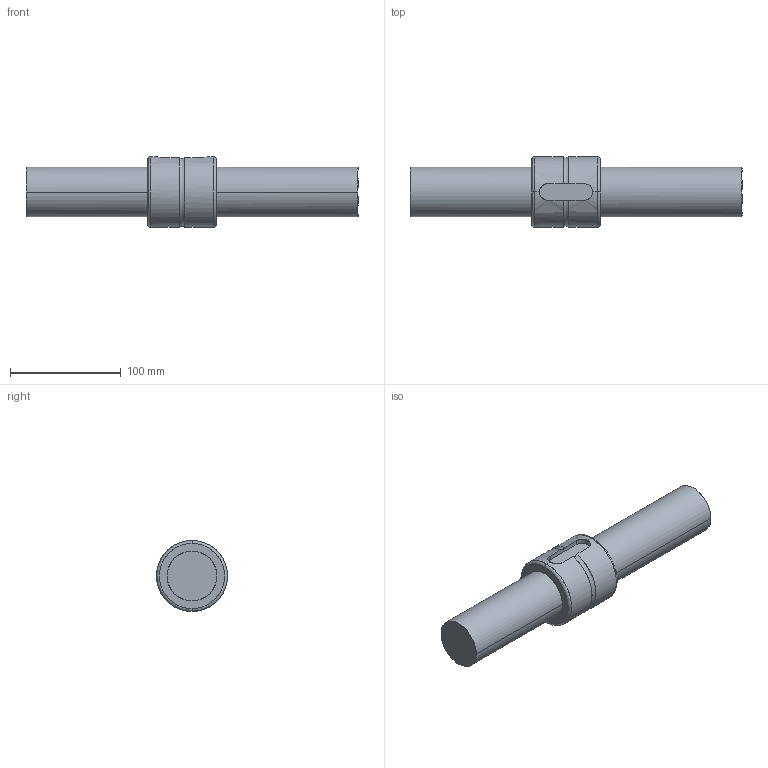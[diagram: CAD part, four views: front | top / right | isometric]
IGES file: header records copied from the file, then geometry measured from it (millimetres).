
Global section: file name: No Iges File Name specified; native system: AutoDesk Inventor R10; preprocessor: AutoDesk Inventor Iges Exporter R10; author: No Author specified; organization: No Organization specified; date: 20101224.155938; units: millimetre
Bounding box: 300 x 64 x 64 mm (x, y, z)
Surface area: 70282.3 mm2 (no closed solid volume)
Topology: 0 solids, 0 shells, 25 faces, 247 edges, 247 vertices
Faces by surface type: bspline 25
